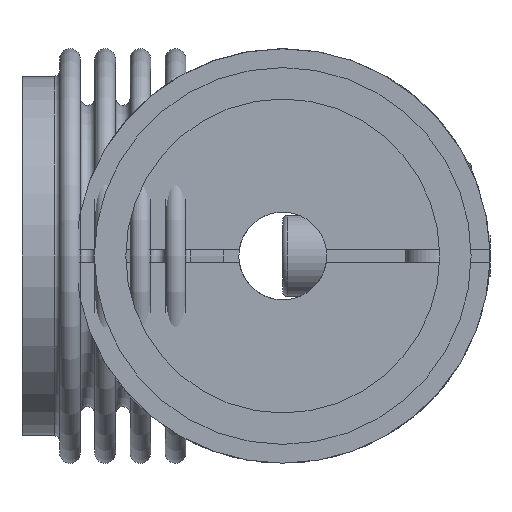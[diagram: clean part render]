
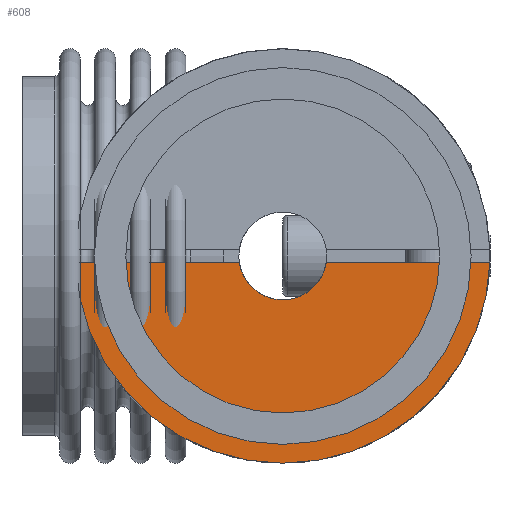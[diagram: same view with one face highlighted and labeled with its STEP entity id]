
A CAD part, front view. The second image highlights one B-rep face of the part: STEP entity #608.
In plain terms, the highlighted planar face has unit normal (0, -1, 0).
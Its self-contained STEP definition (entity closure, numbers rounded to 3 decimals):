
#608 = ADVANCED_FACE( '', ( #891 ), #892, .F. );
#891 = FACE_OUTER_BOUND( '', #1090, .T. );
#892 = PLANE( '', #1091 );
#1090 = EDGE_LOOP( '', ( #1344, #1345, #1346, #1347 ) );
#1091 = AXIS2_PLACEMENT_3D( '', #1348, #1349, #1350 );
#1344 = ORIENTED_EDGE( '', *, *, #1734, .F. );
#1345 = ORIENTED_EDGE( '', *, *, #1737, .T. );
#1346 = ORIENTED_EDGE( '', *, *, #1739, .T. );
#1347 = ORIENTED_EDGE( '', *, *, #1740, .T. );
#1348 = CARTESIAN_POINT( '', ( 0., -31., 0. ) );
#1349 = DIRECTION( '', ( 0., 1., 0. ) );
#1350 = DIRECTION( '', ( 0., 0., 1. ) );
#1734 = EDGE_CURVE( '', #1934, #1932, #1936, .T. );
#1737 = EDGE_CURVE( '', #1934, #1939, #1941, .T. );
#1739 = EDGE_CURVE( '', #1939, #1944, #1945, .T. );
#1740 = EDGE_CURVE( '', #1944, #1932, #1946, .T. );
#1932 = VERTEX_POINT( '', #2206 );
#1934 = VERTEX_POINT( '', #2209 );
#1936 = CIRCLE( '', #2212, 33. );
#1939 = VERTEX_POINT( '', #2215 );
#1941 = LINE( '', #2218, #2219 );
#1944 = VERTEX_POINT( '', #2222 );
#1945 = CIRCLE( '', #2223, 7. );
#1946 = LINE( '', #2224, #2225 );
#2206 = CARTESIAN_POINT( '', ( -32.985, -31., -1. ) );
#2209 = CARTESIAN_POINT( '', ( 32.985, -31., -1. ) );
#2212 = AXIS2_PLACEMENT_3D( '', #2554, #2555, #2556 );
#2215 = CARTESIAN_POINT( '', ( 6.928, -31., -1. ) );
#2218 = CARTESIAN_POINT( '', ( 0., -31., -1. ) );
#2219 = VECTOR( '', #2561, 1000. );
#2222 = CARTESIAN_POINT( '', ( -6.928, -31., -1. ) );
#2223 = AXIS2_PLACEMENT_3D( '', #2565, #2566, #2567 );
#2224 = CARTESIAN_POINT( '', ( 0., -31., -1. ) );
#2225 = VECTOR( '', #2568, 1000. );
#2554 = CARTESIAN_POINT( '', ( 0., -31., 0. ) );
#2555 = DIRECTION( '', ( 0., 1., 0. ) );
#2556 = DIRECTION( '', ( 1., 0., 0. ) );
#2561 = DIRECTION( '', ( -1., 0., 0. ) );
#2565 = CARTESIAN_POINT( '', ( 0., -31., 0. ) );
#2566 = DIRECTION( '', ( 0., 1., 0. ) );
#2567 = DIRECTION( '', ( 1., 0., 0. ) );
#2568 = DIRECTION( '', ( -1., 0., 0. ) );
